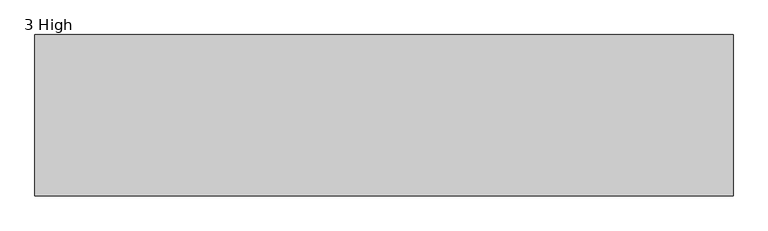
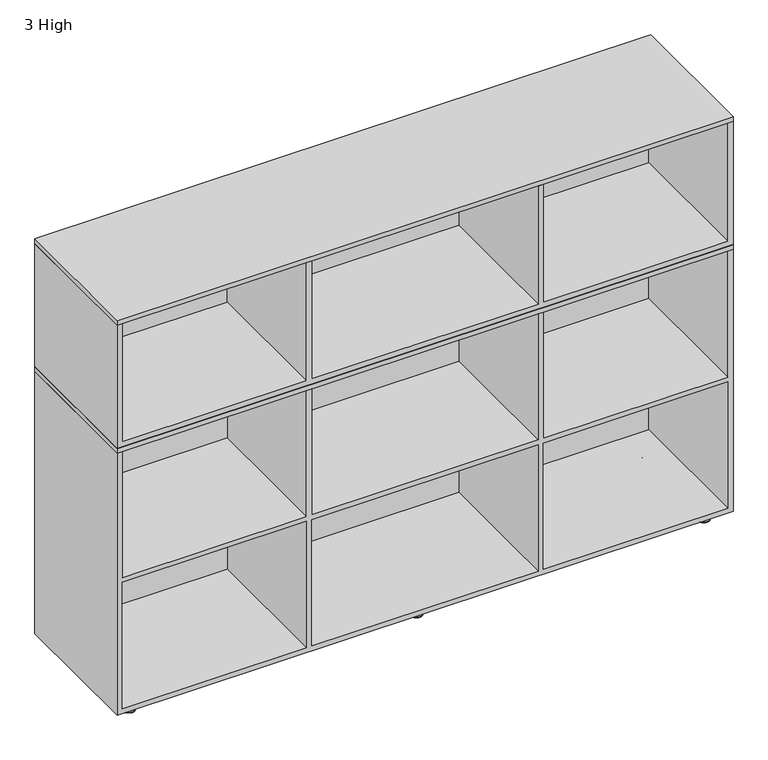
"""IFC4 building model written with IfcOpenShell, lengths in millimetres: furniture geometry, Steelcase Turnstone - Bivi - Storage - Depot : 3 High."""

from ifc_helpers import new_model, si_unit, point, frame, frame_2d, origin, place, context, project, spatial, polyline, circle_curve, ellipse_curve, trimmed, segment, composite_curve, outline, extrude, faceted_brep, source, transform, mapped, element, save
from ifc_brep_helpers import plane_surface, cylinder_surface, revolved_surface, spline_surface, advanced_brep


def furniture_3_high_cb3a7265(model_context):
    return source(origin(), model_context, "Body", "SolidModel", [
        extrude(outline(polyline([(1524.0, 0.0), (0.0, 0.0), (0.0, 352.425), (1524.0, 352.425), (1524.0, 0.0)])), frame((0.0, 0.0, 711.2), z_axis=(0.0, 0.0, 1.0), x_axis=(1.0, 0.0, 0.0)), (0.0, 0.0, 1.0), 11.8411135),
        extrude(outline(polyline([(1524.0, 0.0), (0.0, 0.0), (0.0, 352.425), (1524.0, 352.425), (1524.0, 0.0)])), frame((0.0, 0.0, 1045.1923436), z_axis=(0.0, 0.0, 1.0), x_axis=(1.0, 0.0, 0.0)), (0.0, 0.0, 1.0), 12.5983953),
        faceted_brep([(1524.0, 0.0, 1045.1923436), (1524.0, 0.0, 723.9), (1524.0, 352.425, 723.9), (1524.0, 352.425, 1045.1923436), (0.0, 0.0, 1045.1923436), (0.0, 352.425, 1045.1923436), (0.0, 352.425, 723.9), (0.0, 0.0, 723.9), (1510.9189671, 0.0, 1045.1923436), (1510.9189671, 0.0, 736.6), (1054.3793919, 0.0, 736.6), (1054.3793919, 0.0, 1045.1923436), (1041.2984316, 0.0, 1045.1923436), (1041.2984316, 0.0, 736.6), (481.3553933, 0.0, 736.6), (481.3553933, 0.0, 1045.1923436), (468.2743967, 0.0, 1045.1923436), (468.2743967, 0.0, 736.6), (13.081, 0.0, 736.6), (13.081, 0.0, 1045.1923436), (13.081, 339.217, 1045.1923436), (468.2743967, 339.217, 1045.1923436), (481.3553933, 339.217, 1045.1923436), (1041.2984316, 339.217, 1045.1923436), (1054.3793919, 339.217, 1045.1923436), (1510.9189671, 339.217, 1045.1923436), (13.081, 339.217, 736.6), (468.2743967, 339.217, 736.6), (481.3553933, 339.217, 736.6), (1041.2984316, 339.217, 736.6), (1054.3793919, 339.217, 736.6), (1510.9189671, 339.217, 736.6)], [[[0, 1, 2, 3]], [[4, 5, 6, 7]], [[1, 0, 8, 9, 10, 11, 12, 13, 14, 15, 16, 17, 18, 19, 4, 7]], [[2, 1, 7, 6]], [[3, 2, 6, 5]], [[0, 3, 5, 4, 19, 20, 21, 16, 15, 22, 23, 12, 11, 24, 25, 8]], [[26, 20, 19, 18]], [[27, 26, 18, 17]], [[21, 27, 17, 16]], [[28, 22, 15, 14]], [[29, 28, 14, 13]], [[23, 29, 13, 12]], [[30, 24, 11, 10]], [[31, 30, 10, 9]], [[25, 31, 9, 8]], [[20, 26, 27, 21]], [[22, 28, 29, 23]], [[24, 30, 31, 25]]]),
        advanced_brep(
        [(776.7323801, 38.0780241, 2.6178944), (747.2988961, 38.0780241, 2.6178944), (762.0156381, 38.0780241, 2.6178944), (769.706563, 38.0780241, 8.8411838), (754.3247132, 38.0780241, 8.8411838), (769.706563, 38.0780241, 10.8986525), (754.3247132, 38.0780241, 10.8986525), (762.0156381, 38.0780241, 10.8986525)],
        [
            (0, 1, circle_curve(frame((762.0156381, 38.0780241, 2.6178944), z_axis=(0.0, 0.0, -1.0), x_axis=(-1.0, 0.0, 0.0)), 14.716742)),
            (1, 2),
            (2, 0),
            (1, 0, circle_curve(frame((762.0156381, 38.0780241, 2.6178944), z_axis=(0.0, 0.0, -1.0), x_axis=(-1.0, 0.0, 0.0)), 14.716742)),
            (3, 4, circle_curve(frame((762.0156381, 38.0780241, 8.8411838), z_axis=(0.0, 0.0, -1.0), x_axis=(-1.0, 0.0, 0.0)), 7.6909249)),
            (4, 1, circle_curve(frame((748.0218845, 38.0780241, 8.8792349), z_axis=(0.0, 1.0, 0.0), x_axis=(1.0, 0.0, 0.0)), 6.3029436)),
            (0, 3, circle_curve(frame((776.0093917, 38.0780241, 8.8792349), z_axis=(0.0, 1.0, 0.0), x_axis=(-1.0, 0.0, 0.0)), 6.3029436)),
            (4, 3, circle_curve(frame((762.0156381, 38.0780241, 8.8411838), z_axis=(0.0, 0.0, -1.0), x_axis=(-1.0, 0.0, 0.0)), 7.6909249)),
            (5, 6, circle_curve(frame((762.0156381, 38.0780241, 10.8986525), z_axis=(0.0, 0.0, -1.0), x_axis=(-1.0, 0.0, 0.0)), 7.6909249)),
            (6, 4),
            (3, 5),
            (6, 5, circle_curve(frame((762.0156381, 38.0780241, 10.8986525), z_axis=(0.0, 0.0, -1.0), x_axis=(-1.0, 0.0, 0.0)), 7.6909249)),
            (7, 6),
            (5, 7),
        ],
        [
            plane_surface(frame((762.0156381, 38.0780241, 2.6178944), z_axis=(0.0, 0.0, -1.0), x_axis=(-1.0, 0.0, 0.0))),
            revolved_surface(trimmed(ellipse_curve(frame((748.0218845, 38.0780241, 8.8792349), z_axis=(0.0, -1.0, 0.0), x_axis=(1.0, 0.0, 0.0)), 6.3029436, 6.3029436), [point((747.2988961, 38.0780241, 2.6178944))], [point((754.3247132, 38.0780241, 8.8411838))], True, "CARTESIAN"), (762.0156381, 38.0780241, 10.8986525), (0.0, 0.0, 1.0)),
            cylinder_surface(frame((762.0156381, 38.0780241, 10.8986525), z_axis=(0.0, 0.0, 1.0), x_axis=(-1.0, 0.0, 0.0)), 7.6909249),
            plane_surface(frame((762.0156381, 38.0780241, 10.8986525), z_axis=(0.0, 0.0, 1.0), x_axis=(-1.0, 0.0, 0.0))),
        ],
        [
            (0, [[1, 2, 3]]),
            (0, [[4, -3, -2]]),
            (1, [[5, 6, -1, 7]]),
            (1, [[8, -7, -4, -6]]),
            (2, [[9, 10, -5, 11]]),
            (2, [[12, -11, -8, -10]]),
            (3, [[13, -9, 14]]),
            (3, [[-14, -12, -13]]),
        ],
    ),
        advanced_brep(
        [(775.1743443, 38.0780241, 0.0), (748.8795601, 38.0780241, 0.0), (762.0269522, 38.0780241, 0.0), (776.7550083, 38.0780241, 1.580664), (747.2988961, 38.0780241, 1.580664), (776.7550083, 38.0780241, 2.6178944), (747.2988961, 38.0780241, 2.6178944), (762.0269522, 38.0780241, 2.6178944)],
        [
            (0, 1, circle_curve(frame((762.0269522, 38.0780241, 0.0), z_axis=(0.0, 0.0, -1.0), x_axis=(-1.0, 0.0, 0.0)), 13.1473921)),
            (1, 2),
            (2, 0),
            (1, 0, circle_curve(frame((762.0269522, 38.0780241, 0.0), z_axis=(0.0, 0.0, -1.0), x_axis=(-1.0, 0.0, 0.0)), 13.1473921)),
            (3, 4, circle_curve(frame((762.0269522, 38.0780241, 1.580664), z_axis=(0.0, 0.0, -1.0), x_axis=(-1.0, 0.0, 0.0)), 14.7280561)),
            (4, 1, circle_curve(frame((748.8795601, 38.0780241, 1.580664), z_axis=(0.0, -1.0, 0.0), x_axis=(1.0, 0.0, 0.0)), 1.580664)),
            (0, 3, circle_curve(frame((775.1743443, 38.0780241, 1.580664), z_axis=(0.0, -1.0, 0.0), x_axis=(-1.0, 0.0, 0.0)), 1.580664)),
            (4, 3, circle_curve(frame((762.0269522, 38.0780241, 1.580664), z_axis=(0.0, 0.0, -1.0), x_axis=(-1.0, 0.0, 0.0)), 14.7280561)),
            (5, 6, circle_curve(frame((762.0269522, 38.0780241, 2.6178944), z_axis=(0.0, 0.0, -1.0), x_axis=(-1.0, 0.0, 0.0)), 14.7280561)),
            (6, 4),
            (3, 5),
            (6, 5, circle_curve(frame((762.0269522, 38.0780241, 2.6178944), z_axis=(0.0, 0.0, -1.0), x_axis=(-1.0, 0.0, 0.0)), 14.7280561)),
            (7, 6),
            (5, 7),
        ],
        [
            plane_surface(frame((762.0269522, 38.0780241, 0.0), z_axis=(0.0, 0.0, -1.0), x_axis=(-1.0, 0.0, 0.0))),
            revolved_surface(trimmed(ellipse_curve(frame((748.8795601, 38.0780241, 1.580664), z_axis=(0.0, 1.0, 0.0), x_axis=(1.0, 0.0, 0.0)), 1.580664, 1.580664), [point((748.8795601, 38.0780241, 0.0))], [point((747.2988961, 38.0780241, 1.580664))], True, "CARTESIAN"), (762.0269522, 38.0780241, 2.6178944), (0.0, 0.0, 1.0)),
            cylinder_surface(frame((762.0269522, 38.0780241, 2.6178944), z_axis=(0.0, 0.0, 1.0), x_axis=(-1.0, 0.0, 0.0)), 14.7280561),
            plane_surface(frame((762.0269522, 38.0780241, 2.6178944), z_axis=(0.0, 0.0, 1.0), x_axis=(-1.0, 0.0, 0.0))),
        ],
        [
            (0, [[1, 2, 3]]),
            (0, [[4, -3, -2]]),
            (1, [[5, 6, -1, 7]]),
            (1, [[8, -7, -4, -6]]),
            (2, [[9, 10, -5, 11]]),
            (2, [[12, -11, -8, -10]]),
            (3, [[13, -9, 14]]),
            (3, [[-14, -12, -13]]),
        ],
    ),
        extrude(outline(composite_curve([segment(trimmed(circle_curve(frame_2d((762.0156381, 38.1183079)), 3.9557313), [point((758.0599068, 38.1183079))], [point((765.9713694, 38.1183079))], False, "CARTESIAN"), True, "CONTINUOUS"), segment(trimmed(circle_curve(frame_2d((762.0156381, 38.1183079)), 3.9557313), [point((765.9713694, 38.1183079))], [point((758.0599068, 38.1183079))], False, "CARTESIAN"), True, "CONTINUOUS")], self_intersect=False)), frame((0.0, 0.0, 10.8986525), z_axis=(0.0, 0.0, 1.0), x_axis=(1.0, 0.0, 0.0)), (0.0, 0.0, 1.0), 11.6640053),
        advanced_brep(
        [(758.0822362, 38.1098067, 22.5626578), (765.9722002, 38.1098067, 22.5626578), (759.079, 38.1098067, 23.622), (764.9502172, 38.1098067, 23.622)],
        [
            (0, 1, circle_curve(frame((762.0272182, 38.1098067, 22.5626578), z_axis=(0.0, 0.0, -1.0), x_axis=(1.0, 0.0, 0.0)), 3.944982)),
            (1, 0, circle_curve(frame((762.0272182, 38.1098067, 22.5626578), z_axis=(0.0, 0.0, -1.0), x_axis=(1.0, 0.0, 0.0)), 3.944982)),
            (2, 3, circle_curve(frame((762.0146086, 38.1098067, 23.622), z_axis=(0.0, 0.0, 1.0), x_axis=(1.0, 0.0, 0.0)), 2.9356086)),
            (3, 2, circle_curve(frame((762.0146086, 38.1098067, 23.622), z_axis=(0.0, 0.0, 1.0), x_axis=(1.0, 0.0, 0.0)), 2.9356086)),
            (3, 1),
            (0, 2),
        ],
        [
            plane_surface(frame((762.0272182, 38.1098067, 22.5626578), z_axis=(0.0, 0.0, -1.0), x_axis=(0.0, -1.0, 0.0))),
            plane_surface(frame((762.0146086, 38.1098067, 23.622), z_axis=(0.0, 0.0, 1.0), x_axis=(0.0, -1.0, 0.0))),
            spline_surface(2, 1, [[(759.079, 38.1098067, 23.622), (758.0822362, 38.1098067, 22.5626578)], [(759.079, 41.04541530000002, 23.622), (758.0822362, 42.05478869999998, 22.5626578)], [(762.0146086, 41.04541530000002, 23.622), (762.0272182, 42.05478869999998, 22.5626578)], [(764.9502172, 41.04541530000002, 23.622), (765.9722002, 42.05478869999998, 22.5626578)], [(764.9502172, 38.1098067, 23.622), (765.9722002, 38.1098067, 22.5626578)]], [3, 2, 3], [2, 2], [0.0, 1.0, 2.0], [0.0, 1.0], weights=[[1.0, 1.0], [0.7071067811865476, 0.7071067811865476], [1.0, 1.0], [0.7071067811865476, 0.7071067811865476], [1.0, 1.0]]),
            spline_surface(2, 1, [[(764.9502172, 38.1098067, 23.622), (765.9722002, 38.1098067, 22.5626578)], [(764.9502172, 35.17419809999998, 23.622), (765.9722002, 34.16482470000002, 22.5626578)], [(762.0146086, 35.17419809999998, 23.622), (762.0272182, 34.16482470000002, 22.5626578)], [(759.079, 35.17419809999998, 23.622), (758.0822362, 34.16482470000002, 22.5626578)], [(759.079, 38.1098067, 23.622), (758.0822362, 38.1098067, 22.5626578)]], [3, 2, 3], [2, 2], [0.0, 1.0, 2.0], [0.0, 1.0], weights=[[1.0, 1.0], [0.7071067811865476, 0.7071067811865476], [1.0, 1.0], [0.7071067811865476, 0.7071067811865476], [1.0, 1.0]]),
        ],
        [
            (0, [[1, 2]]),
            (1, [[3, 4]]),
            (2, [[-4, 5, -1, 6]]),
            (3, [[-3, -6, -2, -5]]),
        ],
    ),
        advanced_brep(
        [(769.706563, 314.3469759, 10.8986525), (754.3247132, 314.3469759, 10.8986525), (762.0156381, 314.3469759, 10.8986525), (769.706563, 314.3469759, 8.8411838), (754.3247132, 314.3469759, 8.8411838), (776.7323801, 314.3469759, 2.6178944), (747.2988961, 314.3469759, 2.6178944), (762.0156381, 314.3469759, 2.6178944)],
        [
            (0, 1, circle_curve(frame((762.0156381, 314.3469759, 10.8986525), z_axis=(0.0, 0.0, 1.0), x_axis=(-1.0, 0.0, 0.0)), 7.6909249)),
            (1, 2),
            (2, 0),
            (1, 0, circle_curve(frame((762.0156381, 314.3469759, 10.8986525), z_axis=(0.0, 0.0, 1.0), x_axis=(-1.0, 0.0, 0.0)), 7.6909249)),
            (3, 4, circle_curve(frame((762.0156381, 314.3469759, 8.8411838), z_axis=(0.0, 0.0, 1.0), x_axis=(-1.0, 0.0, 0.0)), 7.6909249)),
            (4, 1),
            (0, 3),
            (4, 3, circle_curve(frame((762.0156381, 314.3469759, 8.8411838), z_axis=(0.0, 0.0, 1.0), x_axis=(-1.0, 0.0, 0.0)), 7.6909249)),
            (5, 6, circle_curve(frame((762.0156381, 314.3469759, 2.6178944), z_axis=(0.0, 0.0, 1.0), x_axis=(-1.0, 0.0, 0.0)), 14.716742)),
            (6, 4, circle_curve(frame((748.0218845, 314.3469759, 8.8792349), z_axis=(0.0, -1.0, 0.0), x_axis=(1.0, 0.0, 0.0)), 6.3029436)),
            (3, 5, circle_curve(frame((776.0093917, 314.3469759, 8.8792349), z_axis=(0.0, -1.0, 0.0), x_axis=(-1.0, 0.0, 0.0)), 6.3029436)),
            (6, 5, circle_curve(frame((762.0156381, 314.3469759, 2.6178944), z_axis=(0.0, 0.0, 1.0), x_axis=(-1.0, 0.0, 0.0)), 14.716742)),
            (7, 6),
            (5, 7),
        ],
        [
            plane_surface(frame((762.0156381, 314.3469759, 10.8986525), z_axis=(0.0, 0.0, 1.0), x_axis=(-1.0, 0.0, 0.0))),
            cylinder_surface(frame((762.0156381, 314.3469759, 10.8986525), z_axis=(0.0, 0.0, -1.0), x_axis=(-1.0, 0.0, 0.0)), 7.6909249),
            revolved_surface(trimmed(ellipse_curve(frame((748.0218845, 314.3469759, 8.8792349), z_axis=(0.0, 1.0, 0.0), x_axis=(1.0, 0.0, 0.0)), 6.3029436, 6.3029436), [point((754.3247132, 314.3469759, 8.8411838))], [point((747.2988961, 314.3469759, 2.6178944))], True, "CARTESIAN"), (762.0156381, 314.3469759, 10.8986525), (0.0, 0.0, -1.0)),
            plane_surface(frame((762.0156381, 314.3469759, 2.6178944), z_axis=(0.0, 0.0, -1.0), x_axis=(-1.0, 0.0, 0.0))),
        ],
        [
            (0, [[1, 2, 3]]),
            (0, [[4, -3, -2]]),
            (1, [[5, 6, -1, 7]]),
            (1, [[8, -7, -4, -6]]),
            (2, [[9, 10, -5, 11]]),
            (2, [[12, -11, -8, -10]]),
            (3, [[13, -9, 14]]),
            (3, [[-14, -12, -13]]),
        ],
    ),
        advanced_brep(
        [(776.7550083, 314.3469759, 2.6178944), (747.2988961, 314.3469759, 2.6178944), (762.0269522, 314.3469759, 2.6178944), (776.7550083, 314.3469759, 1.580664), (747.2988961, 314.3469759, 1.580664), (775.1743443, 314.3469759, 0.0), (748.8795601, 314.3469759, 0.0), (762.0269522, 314.3469759, 0.0)],
        [
            (0, 1, circle_curve(frame((762.0269522, 314.3469759, 2.6178944), z_axis=(0.0, 0.0, 1.0), x_axis=(-1.0, 0.0, 0.0)), 14.7280561)),
            (1, 2),
            (2, 0),
            (1, 0, circle_curve(frame((762.0269522, 314.3469759, 2.6178944), z_axis=(0.0, 0.0, 1.0), x_axis=(-1.0, 0.0, 0.0)), 14.7280561)),
            (3, 4, circle_curve(frame((762.0269522, 314.3469759, 1.580664), z_axis=(0.0, 0.0, 1.0), x_axis=(-1.0, 0.0, 0.0)), 14.7280561)),
            (4, 1),
            (0, 3),
            (4, 3, circle_curve(frame((762.0269522, 314.3469759, 1.580664), z_axis=(0.0, 0.0, 1.0), x_axis=(-1.0, 0.0, 0.0)), 14.7280561)),
            (5, 6, circle_curve(frame((762.0269522, 314.3469759, 0.0), z_axis=(0.0, 0.0, 1.0), x_axis=(-1.0, 0.0, 0.0)), 13.1473921)),
            (6, 4, circle_curve(frame((748.8795601, 314.3469759, 1.580664), z_axis=(0.0, 1.0, 0.0), x_axis=(1.0, 0.0, 0.0)), 1.580664)),
            (3, 5, circle_curve(frame((775.1743443, 314.3469759, 1.580664), z_axis=(0.0, 1.0, 0.0), x_axis=(-1.0, 0.0, 0.0)), 1.580664)),
            (6, 5, circle_curve(frame((762.0269522, 314.3469759, 0.0), z_axis=(0.0, 0.0, 1.0), x_axis=(-1.0, 0.0, 0.0)), 13.1473921)),
            (7, 6),
            (5, 7),
        ],
        [
            plane_surface(frame((762.0269522, 314.3469759, 2.6178944), z_axis=(0.0, 0.0, 1.0), x_axis=(-1.0, 0.0, 0.0))),
            cylinder_surface(frame((762.0269522, 314.3469759, 2.6178944), z_axis=(0.0, 0.0, -1.0), x_axis=(-1.0, 0.0, 0.0)), 14.7280561),
            revolved_surface(trimmed(ellipse_curve(frame((748.8795601, 314.3469759, 1.580664), z_axis=(0.0, -1.0, 0.0), x_axis=(1.0, 0.0, 0.0)), 1.580664, 1.580664), [point((747.2988961, 314.3469759, 1.580664))], [point((748.8795601, 314.3469759, 0.0))], True, "CARTESIAN"), (762.0269522, 314.3469759, 2.6178944), (0.0, 0.0, -1.0)),
            plane_surface(frame((762.0269522, 314.3469759, 0.0), z_axis=(0.0, 0.0, -1.0), x_axis=(-1.0, 0.0, 0.0))),
        ],
        [
            (0, [[1, 2, 3]]),
            (0, [[4, -3, -2]]),
            (1, [[5, 6, -1, 7]]),
            (1, [[8, -7, -4, -6]]),
            (2, [[9, 10, -5, 11]]),
            (2, [[12, -11, -8, -10]]),
            (3, [[13, -9, 14]]),
            (3, [[-14, -12, -13]]),
        ],
    ),
        extrude(outline(composite_curve([segment(trimmed(circle_curve(frame_2d((762.0156381, 314.3066921)), 3.9557313), [point((758.0599068, 314.3066921))], [point((765.9713694, 314.3066921))], False, "CARTESIAN"), True, "CONTINUOUS"), segment(trimmed(circle_curve(frame_2d((762.0156381, 314.3066921)), 3.9557313), [point((765.9713694, 314.3066921))], [point((758.0599068, 314.3066921))], False, "CARTESIAN"), True, "CONTINUOUS")], self_intersect=False)), frame((0.0, 0.0, 10.8986525), z_axis=(0.0, 0.0, 1.0), x_axis=(1.0, 0.0, 0.0)), (0.0, 0.0, 1.0), 11.6640053),
        advanced_brep(
        [(758.0822362, 314.3151933, 22.5626578), (765.9722002, 314.3151933, 22.5626578), (759.079, 314.3151933, 23.622), (764.9502172, 314.3151933, 23.622)],
        [
            (0, 1, circle_curve(frame((762.0272182, 314.3151933, 22.5626578), z_axis=(0.0, 0.0, -1.0), x_axis=(1.0, 0.0, 0.0)), 3.944982)),
            (1, 0, circle_curve(frame((762.0272182, 314.3151933, 22.5626578), z_axis=(0.0, 0.0, -1.0), x_axis=(1.0, 0.0, 0.0)), 3.944982)),
            (2, 3, circle_curve(frame((762.0146086, 314.3151933, 23.622), z_axis=(0.0, 0.0, 1.0), x_axis=(1.0, 0.0, 0.0)), 2.9356086)),
            (3, 2, circle_curve(frame((762.0146086, 314.3151933, 23.622), z_axis=(0.0, 0.0, 1.0), x_axis=(1.0, 0.0, 0.0)), 2.9356086)),
            (3, 1),
            (0, 2),
        ],
        [
            plane_surface(frame((762.0272182, 314.3151933, 22.5626578), z_axis=(0.0, 0.0, -1.0), x_axis=(0.0, -1.0, 0.0))),
            plane_surface(frame((762.0146086, 314.3151933, 23.622), z_axis=(0.0, 0.0, 1.0), x_axis=(0.0, -1.0, 0.0))),
            spline_surface(2, 1, [[(759.079, 314.3151933, 23.622), (758.0822362, 314.3151933, 22.5626578)], [(759.079, 317.2508019, 23.622), (758.0822362, 318.26017529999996, 22.5626578)], [(762.0146086, 317.2508019, 23.622), (762.0272182, 318.26017529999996, 22.5626578)], [(764.9502172, 317.2508019, 23.622), (765.9722002, 318.26017529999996, 22.5626578)], [(764.9502172, 314.3151933, 23.622), (765.9722002, 314.3151933, 22.5626578)]], [3, 2, 3], [2, 2], [0.0, 1.0, 2.0], [0.0, 1.0], weights=[[1.0, 1.0], [0.7071067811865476, 0.7071067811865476], [1.0, 1.0], [0.7071067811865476, 0.7071067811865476], [1.0, 1.0]]),
            spline_surface(2, 1, [[(764.9502172, 314.3151933, 23.622), (765.9722002, 314.3151933, 22.5626578)], [(764.9502172, 311.37958469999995, 23.622), (765.9722002, 310.3702113, 22.5626578)], [(762.0146086, 311.37958469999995, 23.622), (762.0272182, 310.3702113, 22.5626578)], [(759.079, 311.37958469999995, 23.622), (758.0822362, 310.3702113, 22.5626578)], [(759.079, 314.3151933, 23.622), (758.0822362, 314.3151933, 22.5626578)]], [3, 2, 3], [2, 2], [0.0, 1.0, 2.0], [0.0, 1.0], weights=[[1.0, 1.0], [0.7071067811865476, 0.7071067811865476], [1.0, 1.0], [0.7071067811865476, 0.7071067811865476], [1.0, 1.0]]),
        ],
        [
            (0, [[1, 2]]),
            (1, [[3, 4]]),
            (2, [[-4, 5, -1, 6]]),
            (3, [[-3, -6, -2, -5]]),
        ],
    ),
        faceted_brep([(0.0, 0.0, 711.2), (0.0, 0.0, 25.4), (1524.0, 0.0, 25.4), (1524.0, 0.0, 711.2), (1510.9189671, 0.0, 711.2), (1510.9189671, 0.0, 381.0), (1054.3793919, 0.0, 381.0), (1054.3793919, 0.0, 711.2), (1041.2984316, 0.0, 711.2), (1041.2984316, 0.0, 381.0), (481.3553933, 0.0, 381.0), (481.3553933, 0.0, 711.2), (468.2743967, 0.0, 711.2), (468.2743967, 0.0, 381.0), (13.081, 0.0, 381.0), (13.081, 0.0, 711.2), (13.081, 0.0, 368.3), (468.2743967, 0.0, 368.3), (468.2743967, 0.0, 38.1), (13.081, 0.0, 38.1), (481.3553933, 0.0, 368.3), (1041.2984316, 0.0, 368.3), (1041.2984316, 0.0, 38.1), (481.3553933, 0.0, 38.1), (1054.3793919, 0.0, 368.3), (1510.9189671, 0.0, 368.3), (1510.9189671, 0.0, 38.1), (1054.3793919, 0.0, 38.1), (1524.0, 352.425, 711.2), (1524.0, 352.425, 25.4), (0.0, 352.425, 25.4), (0.0, 352.425, 711.2), (13.081, 339.344, 711.2), (468.2743967, 339.344, 711.2), (481.3553933, 339.344, 711.2), (1041.2984316, 339.344, 711.2), (1054.3793919, 339.344, 711.2), (1510.9189671, 339.344, 711.2), (13.081, 339.344, 381.0), (468.2743967, 339.344, 381.0), (481.3553933, 339.344, 381.0), (1041.2984316, 339.344, 381.0), (1054.3793919, 339.344, 381.0), (1510.9189671, 339.344, 381.0), (468.2743967, 339.344, 368.3), (13.081, 339.344, 368.3), (13.081, 339.344, 38.1), (468.2743967, 339.344, 38.1), (1041.2984316, 339.344, 368.3), (481.3553933, 339.344, 368.3), (481.3553933, 339.344, 38.1), (1041.2984316, 339.344, 38.1), (1510.9189671, 339.344, 368.3), (1054.3793919, 339.344, 368.3), (1054.3793919, 339.344, 38.1), (1510.9189671, 339.344, 38.1)], [[[0, 1, 2, 3, 4, 5, 6, 7, 8, 9, 10, 11, 12, 13, 14, 15], [16, 17, 18, 19], [20, 21, 22, 23], [24, 25, 26, 27]], [[28, 29, 30, 31]], [[28, 31, 0, 15, 32, 33, 12, 11, 34, 35, 8, 7, 36, 37, 4, 3]], [[1, 0, 31, 30]], [[2, 1, 30, 29]], [[3, 2, 29, 28]], [[32, 38, 39, 33]], [[34, 40, 41, 35]], [[36, 42, 43, 37]], [[44, 45, 46, 47]], [[48, 49, 50, 51]], [[52, 53, 54, 55]], [[38, 32, 15, 14]], [[39, 38, 14, 13]], [[33, 39, 13, 12]], [[40, 34, 11, 10]], [[41, 40, 10, 9]], [[35, 41, 9, 8]], [[42, 36, 7, 6]], [[43, 42, 6, 5]], [[37, 43, 5, 4]], [[45, 44, 17, 16]], [[46, 45, 16, 19]], [[47, 46, 19, 18]], [[44, 47, 18, 17]], [[49, 48, 21, 20]], [[50, 49, 20, 23]], [[51, 50, 23, 22]], [[48, 51, 22, 21]], [[53, 52, 25, 24]], [[54, 53, 24, 27]], [[55, 54, 27, 26]], [[52, 55, 26, 25]]]),
        extrude(outline(polyline([(25.4000008, 13.0809966), (25.4000008, 339.344), (76.2, 339.344), (76.2, 13.0809966), (25.4000008, 13.0809966)])), frame((0.0, 0.0, 15.8750011), z_axis=(0.0, 0.0, 1.0), x_axis=(1.0, 0.0, 0.0)), (0.0, 0.0, 1.0), 9.5249989),
        extrude(outline(polyline([(736.6000242, 13.0809966), (736.6000242, 339.344), (787.4000235, 339.344), (787.4000235, 13.0809966), (736.6000242, 13.0809966)])), frame((0.0, 0.0, 15.8750011), z_axis=(0.0, 0.0, 1.0), x_axis=(1.0, 0.0, 0.0)), (0.0, 0.0, 1.0), 9.5249989),
        extrude(outline(polyline([(1447.8, 13.0809966), (1447.8, 339.344), (1498.5999992, 339.344), (1498.5999992, 13.0809966), (1447.8, 13.0809966)])), frame((0.0, 0.0, 15.8750011), z_axis=(0.0, 0.0, 1.0), x_axis=(1.0, 0.0, 0.0)), (0.0, 0.0, 1.0), 9.5249989),
        advanced_brep(
        [(1465.5173965, 38.0780241, 10.8986525), (1480.8992463, 38.0780241, 10.8986525), (1473.2083214, 38.0780241, 10.8986525), (1465.5173965, 38.0780241, 8.8411838), (1480.8992463, 38.0780241, 8.8411838), (1458.4915794, 38.0780241, 2.6178944), (1487.9250634, 38.0780241, 2.6178944), (1473.2083214, 38.0780241, 2.6178944)],
        [
            (0, 1, circle_curve(frame((1473.2083214, 38.0780241, 10.8986525), z_axis=(0.0, 0.0, 1.0), x_axis=(1.0, 0.0, 0.0)), 7.6909249)),
            (1, 2),
            (2, 0),
            (1, 0, circle_curve(frame((1473.2083214, 38.0780241, 10.8986525), z_axis=(0.0, 0.0, 1.0), x_axis=(1.0, 0.0, 0.0)), 7.6909249)),
            (3, 4, circle_curve(frame((1473.2083214, 38.0780241, 8.8411838), z_axis=(0.0, 0.0, 1.0), x_axis=(1.0, 0.0, 0.0)), 7.6909249)),
            (4, 1),
            (0, 3),
            (4, 3, circle_curve(frame((1473.2083214, 38.0780241, 8.8411838), z_axis=(0.0, 0.0, 1.0), x_axis=(1.0, 0.0, 0.0)), 7.6909249)),
            (5, 6, circle_curve(frame((1473.2083214, 38.0780241, 2.6178944), z_axis=(0.0, 0.0, 1.0), x_axis=(1.0, 0.0, 0.0)), 14.716742)),
            (6, 4, circle_curve(frame((1487.202075, 38.0780241, 8.8792349), z_axis=(0.0, 1.0, 0.0), x_axis=(-1.0, 0.0, 0.0)), 6.3029436)),
            (3, 5, circle_curve(frame((1459.2145678, 38.0780241, 8.8792349), z_axis=(0.0, 1.0, 0.0), x_axis=(1.0, 0.0, 0.0)), 6.3029436)),
            (6, 5, circle_curve(frame((1473.2083214, 38.0780241, 2.6178944), z_axis=(0.0, 0.0, 1.0), x_axis=(1.0, 0.0, 0.0)), 14.716742)),
            (7, 6),
            (5, 7),
        ],
        [
            plane_surface(frame((1473.2083214, 38.0780241, 10.8986525), z_axis=(0.0, 0.0, 1.0), x_axis=(1.0, 0.0, 0.0))),
            cylinder_surface(frame((1473.2083214, 38.0780241, 10.8986525), z_axis=(0.0, 0.0, -1.0), x_axis=(1.0, 0.0, 0.0)), 7.6909249),
            revolved_surface(trimmed(ellipse_curve(frame((1487.202075, 38.0780241, 8.8792349), z_axis=(0.0, -1.0, 0.0), x_axis=(-1.0, 0.0, 0.0)), 6.3029436, 6.3029436), [point((1480.8992463, 38.0780241, 8.8411838))], [point((1487.9250634, 38.0780241, 2.6178944))], True, "CARTESIAN"), (1473.2083214, 38.0780241, 10.8986525), (0.0, 0.0, -1.0)),
            plane_surface(frame((1473.2083214, 38.0780241, 2.6178944), z_axis=(0.0, 0.0, -1.0), x_axis=(1.0, 0.0, 0.0))),
        ],
        [
            (0, [[1, 2, 3]]),
            (0, [[4, -3, -2]]),
            (1, [[5, 6, -1, 7]]),
            (1, [[8, -7, -4, -6]]),
            (2, [[9, 10, -5, 11]]),
            (2, [[12, -11, -8, -10]]),
            (3, [[13, -9, 14]]),
            (3, [[-14, -12, -13]]),
        ],
    ),
        advanced_brep(
        [(1458.4689512, 38.0780241, 2.6178944), (1487.9250634, 38.0780241, 2.6178944), (1473.1970073, 38.0780241, 2.6178944), (1458.4689512, 38.0780241, 1.580664), (1487.9250634, 38.0780241, 1.580664), (1460.0496152, 38.0780241, 0.0), (1486.3443994, 38.0780241, 0.0), (1473.1970073, 38.0780241, 0.0)],
        [
            (0, 1, circle_curve(frame((1473.1970073, 38.0780241, 2.6178944), z_axis=(0.0, 0.0, 1.0), x_axis=(1.0, 0.0, 0.0)), 14.7280561)),
            (1, 2),
            (2, 0),
            (1, 0, circle_curve(frame((1473.1970073, 38.0780241, 2.6178944), z_axis=(0.0, 0.0, 1.0), x_axis=(1.0, 0.0, 0.0)), 14.7280561)),
            (3, 4, circle_curve(frame((1473.1970073, 38.0780241, 1.580664), z_axis=(0.0, 0.0, 1.0), x_axis=(1.0, 0.0, 0.0)), 14.7280561)),
            (4, 1),
            (0, 3),
            (4, 3, circle_curve(frame((1473.1970073, 38.0780241, 1.580664), z_axis=(0.0, 0.0, 1.0), x_axis=(1.0, 0.0, 0.0)), 14.7280561)),
            (5, 6, circle_curve(frame((1473.1970073, 38.0780241, 0.0), z_axis=(0.0, 0.0, 1.0), x_axis=(1.0, 0.0, 0.0)), 13.1473921)),
            (6, 4, circle_curve(frame((1486.3443994, 38.0780241, 1.580664), z_axis=(0.0, -1.0, 0.0), x_axis=(-1.0, 0.0, 0.0)), 1.580664)),
            (3, 5, circle_curve(frame((1460.0496152, 38.0780241, 1.580664), z_axis=(0.0, -1.0, 0.0), x_axis=(1.0, 0.0, 0.0)), 1.580664)),
            (6, 5, circle_curve(frame((1473.1970073, 38.0780241, 0.0), z_axis=(0.0, 0.0, 1.0), x_axis=(1.0, 0.0, 0.0)), 13.1473921)),
            (7, 6),
            (5, 7),
        ],
        [
            plane_surface(frame((1473.1970073, 38.0780241, 2.6178944), z_axis=(0.0, 0.0, 1.0), x_axis=(1.0, 0.0, 0.0))),
            cylinder_surface(frame((1473.1970073, 38.0780241, 2.6178944), z_axis=(0.0, 0.0, -1.0), x_axis=(1.0, 0.0, 0.0)), 14.7280561),
            revolved_surface(trimmed(ellipse_curve(frame((1486.3443994, 38.0780241, 1.580664), z_axis=(0.0, 1.0, 0.0), x_axis=(-1.0, 0.0, 0.0)), 1.580664, 1.580664), [point((1487.9250634, 38.0780241, 1.580664))], [point((1486.3443994, 38.0780241, 0.0))], True, "CARTESIAN"), (1473.1970073, 38.0780241, 2.6178944), (0.0, 0.0, -1.0)),
            plane_surface(frame((1473.1970073, 38.0780241, 0.0), z_axis=(0.0, 0.0, -1.0), x_axis=(1.0, 0.0, 0.0))),
        ],
        [
            (0, [[1, 2, 3]]),
            (0, [[4, -3, -2]]),
            (1, [[5, 6, -1, 7]]),
            (1, [[8, -7, -4, -6]]),
            (2, [[9, 10, -5, 11]]),
            (2, [[12, -11, -8, -10]]),
            (3, [[13, -9, 14]]),
            (3, [[-14, -12, -13]]),
        ],
    ),
        extrude(outline(composite_curve([segment(trimmed(circle_curve(frame_2d((1473.2083214, 38.1183079)), 3.9557313), [point((1477.1640527, 38.1183079))], [point((1469.2525901, 38.1183079))], False, "CARTESIAN"), True, "CONTINUOUS"), segment(trimmed(circle_curve(frame_2d((1473.2083214, 38.1183079)), 3.9557313), [point((1469.2525901, 38.1183079))], [point((1477.1640527, 38.1183079))], False, "CARTESIAN"), True, "CONTINUOUS")], self_intersect=False)), frame((0.0, 0.0, 10.8986525), z_axis=(0.0, 0.0, 1.0), x_axis=(1.0, 0.0, 0.0)), (0.0, 0.0, 1.0), 11.6640053),
        advanced_brep(
        [(1477.1417233, 38.1098067, 22.5626578), (1469.2517593, 38.1098067, 22.5626578), (1476.1449595, 38.1098067, 23.622), (1470.2737423, 38.1098067, 23.622)],
        [
            (0, 1, circle_curve(frame((1473.1967413, 38.1098067, 22.5626578), z_axis=(0.0, 0.0, -1.0), x_axis=(-1.0, 0.0, 0.0)), 3.944982)),
            (1, 0, circle_curve(frame((1473.1967413, 38.1098067, 22.5626578), z_axis=(0.0, 0.0, -1.0), x_axis=(-1.0, 0.0, 0.0)), 3.944982)),
            (2, 3, circle_curve(frame((1473.2093509, 38.1098067, 23.622), z_axis=(0.0, 0.0, 1.0), x_axis=(-1.0, 0.0, 0.0)), 2.9356086)),
            (3, 2, circle_curve(frame((1473.2093509, 38.1098067, 23.622), z_axis=(0.0, 0.0, 1.0), x_axis=(-1.0, 0.0, 0.0)), 2.9356086)),
            (3, 1),
            (0, 2),
        ],
        [
            plane_surface(frame((1473.1967413, 38.1098067, 22.5626578), z_axis=(0.0, 0.0, -1.0), x_axis=(0.0, 1.0, 0.0))),
            plane_surface(frame((1473.2093509, 38.1098067, 23.622), z_axis=(0.0, 0.0, 1.0), x_axis=(0.0, 1.0, 0.0))),
            spline_surface(2, 1, [[(1476.1449595, 38.1098067, 23.622), (1477.1417233, 38.1098067, 22.5626578)], [(1476.1449595, 35.17419809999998, 23.622), (1477.1417233, 34.16482470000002, 22.5626578)], [(1473.2093509, 35.17419809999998, 23.622), (1473.1967413, 34.16482470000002, 22.5626578)], [(1470.2737422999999, 35.17419809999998, 23.622), (1469.2517593, 34.16482470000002, 22.5626578)], [(1470.2737423, 38.1098067, 23.622), (1469.2517593, 38.1098067, 22.5626578)]], [3, 2, 3], [2, 2], [0.0, 1.0, 2.0], [0.0, 1.0], weights=[[1.0, 1.0], [0.7071067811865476, 0.7071067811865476], [1.0, 1.0], [0.7071067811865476, 0.7071067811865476], [1.0, 1.0]]),
            spline_surface(2, 1, [[(1470.2737423, 38.1098067, 23.622), (1469.2517593, 38.1098067, 22.5626578)], [(1470.2737423, 41.045415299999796, 23.622), (1469.2517593, 42.05478869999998, 22.5626578)], [(1473.2093509, 41.045415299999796, 23.622), (1473.1967413, 42.05478869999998, 22.5626578)], [(1476.1449594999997, 41.045415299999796, 23.622), (1477.1417233, 42.05478869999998, 22.5626578)], [(1476.1449595, 38.1098067, 23.622), (1477.1417233, 38.1098067, 22.5626578)]], [3, 2, 3], [2, 2], [0.0, 1.0, 2.0], [0.0, 1.0], weights=[[1.0, 1.0], [0.7071067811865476, 0.7071067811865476], [1.0, 1.0], [0.7071067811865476, 0.7071067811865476], [1.0, 1.0]]),
        ],
        [
            (0, [[1, 2]]),
            (1, [[3, 4]]),
            (2, [[-4, 5, -1, 6]]),
            (3, [[-3, -6, -2, -5]]),
        ],
    ),
        advanced_brep(
        [(65.5084206, 38.0780241, 2.6178944), (36.0749366, 38.0780241, 2.6178944), (50.7916786, 38.0780241, 2.6178944), (58.4826035, 38.0780241, 8.8411838), (43.1007537, 38.0780241, 8.8411838), (58.4826035, 38.0780241, 10.8986525), (43.1007537, 38.0780241, 10.8986525), (50.7916786, 38.0780241, 10.8986525)],
        [
            (0, 1, circle_curve(frame((50.7916786, 38.0780241, 2.6178944), z_axis=(0.0, 0.0, -1.0), x_axis=(-1.0, 0.0, 0.0)), 14.716742)),
            (1, 2),
            (2, 0),
            (1, 0, circle_curve(frame((50.7916786, 38.0780241, 2.6178944), z_axis=(0.0, 0.0, -1.0), x_axis=(-1.0, 0.0, 0.0)), 14.716742)),
            (3, 4, circle_curve(frame((50.7916786, 38.0780241, 8.8411838), z_axis=(0.0, 0.0, -1.0), x_axis=(-1.0, 0.0, 0.0)), 7.6909249)),
            (4, 1, circle_curve(frame((36.797925, 38.0780241, 8.8792349), z_axis=(0.0, 1.0, 0.0), x_axis=(1.0, 0.0, 0.0)), 6.3029436)),
            (0, 3, circle_curve(frame((64.7854322, 38.0780241, 8.8792349), z_axis=(0.0, 1.0, 0.0), x_axis=(-1.0, 0.0, 0.0)), 6.3029436)),
            (4, 3, circle_curve(frame((50.7916786, 38.0780241, 8.8411838), z_axis=(0.0, 0.0, -1.0), x_axis=(-1.0, 0.0, 0.0)), 7.6909249)),
            (5, 6, circle_curve(frame((50.7916786, 38.0780241, 10.8986525), z_axis=(0.0, 0.0, -1.0), x_axis=(-1.0, 0.0, 0.0)), 7.6909249)),
            (6, 4),
            (3, 5),
            (6, 5, circle_curve(frame((50.7916786, 38.0780241, 10.8986525), z_axis=(0.0, 0.0, -1.0), x_axis=(-1.0, 0.0, 0.0)), 7.6909249)),
            (7, 6),
            (5, 7),
        ],
        [
            plane_surface(frame((50.7916786, 38.0780241, 2.6178944), z_axis=(0.0, 0.0, -1.0), x_axis=(-1.0, 0.0, 0.0))),
            revolved_surface(trimmed(ellipse_curve(frame((36.797925, 38.0780241, 8.8792349), z_axis=(0.0, -1.0, 0.0), x_axis=(1.0, 0.0, 0.0)), 6.3029436, 6.3029436), [point((36.0749366, 38.0780241, 2.6178944))], [point((43.1007537, 38.0780241, 8.8411838))], True, "CARTESIAN"), (50.7916786, 38.0780241, 10.8986525), (0.0, 0.0, 1.0)),
            cylinder_surface(frame((50.7916786, 38.0780241, 10.8986525), z_axis=(0.0, 0.0, 1.0), x_axis=(-1.0, 0.0, 0.0)), 7.6909249),
            plane_surface(frame((50.7916786, 38.0780241, 10.8986525), z_axis=(0.0, 0.0, 1.0), x_axis=(-1.0, 0.0, 0.0))),
        ],
        [
            (0, [[1, 2, 3]]),
            (0, [[4, -3, -2]]),
            (1, [[5, 6, -1, 7]]),
            (1, [[8, -7, -4, -6]]),
            (2, [[9, 10, -5, 11]]),
            (2, [[12, -11, -8, -10]]),
            (3, [[13, -9, 14]]),
            (3, [[-14, -12, -13]]),
        ],
    ),
        advanced_brep(
        [(63.9503848, 38.0780241, 0.0), (37.6556006, 38.0780241, 0.0), (50.8029927, 38.0780241, 0.0), (65.5310488, 38.0780241, 1.580664), (36.0749366, 38.0780241, 1.580664), (65.5310488, 38.0780241, 2.6178944), (36.0749366, 38.0780241, 2.6178944), (50.8029927, 38.0780241, 2.6178944)],
        [
            (0, 1, circle_curve(frame((50.8029927, 38.0780241, 0.0), z_axis=(0.0, 0.0, -1.0), x_axis=(-1.0, 0.0, 0.0)), 13.1473921)),
            (1, 2),
            (2, 0),
            (1, 0, circle_curve(frame((50.8029927, 38.0780241, 0.0), z_axis=(0.0, 0.0, -1.0), x_axis=(-1.0, 0.0, 0.0)), 13.1473921)),
            (3, 4, circle_curve(frame((50.8029927, 38.0780241, 1.580664), z_axis=(0.0, 0.0, -1.0), x_axis=(-1.0, 0.0, 0.0)), 14.7280561)),
            (4, 1, circle_curve(frame((37.6556006, 38.0780241, 1.580664), z_axis=(0.0, -1.0, 0.0), x_axis=(1.0, 0.0, 0.0)), 1.580664)),
            (0, 3, circle_curve(frame((63.9503848, 38.0780241, 1.580664), z_axis=(0.0, -1.0, 0.0), x_axis=(-1.0, 0.0, 0.0)), 1.580664)),
            (4, 3, circle_curve(frame((50.8029927, 38.0780241, 1.580664), z_axis=(0.0, 0.0, -1.0), x_axis=(-1.0, 0.0, 0.0)), 14.7280561)),
            (5, 6, circle_curve(frame((50.8029927, 38.0780241, 2.6178944), z_axis=(0.0, 0.0, -1.0), x_axis=(-1.0, 0.0, 0.0)), 14.7280561)),
            (6, 4),
            (3, 5),
            (6, 5, circle_curve(frame((50.8029927, 38.0780241, 2.6178944), z_axis=(0.0, 0.0, -1.0), x_axis=(-1.0, 0.0, 0.0)), 14.7280561)),
            (7, 6),
            (5, 7),
        ],
        [
            plane_surface(frame((50.8029927, 38.0780241, 0.0), z_axis=(0.0, 0.0, -1.0), x_axis=(-1.0, 0.0, 0.0))),
            revolved_surface(trimmed(ellipse_curve(frame((37.6556006, 38.0780241, 1.580664), z_axis=(0.0, 1.0, 0.0), x_axis=(1.0, 0.0, 0.0)), 1.580664, 1.580664), [point((37.6556006, 38.0780241, 0.0))], [point((36.0749366, 38.0780241, 1.580664))], True, "CARTESIAN"), (50.8029927, 38.0780241, 2.6178944), (0.0, 0.0, 1.0)),
            cylinder_surface(frame((50.8029927, 38.0780241, 2.6178944), z_axis=(0.0, 0.0, 1.0), x_axis=(-1.0, 0.0, 0.0)), 14.7280561),
            plane_surface(frame((50.8029927, 38.0780241, 2.6178944), z_axis=(0.0, 0.0, 1.0), x_axis=(-1.0, 0.0, 0.0))),
        ],
        [
            (0, [[1, 2, 3]]),
            (0, [[4, -3, -2]]),
            (1, [[5, 6, -1, 7]]),
            (1, [[8, -7, -4, -6]]),
            (2, [[9, 10, -5, 11]]),
            (2, [[12, -11, -8, -10]]),
            (3, [[13, -9, 14]]),
            (3, [[-14, -12, -13]]),
        ],
    ),
        extrude(outline(composite_curve([segment(trimmed(circle_curve(frame_2d((50.7916786, 38.1183079)), 3.9557313), [point((46.8359473, 38.1183079))], [point((54.7474099, 38.1183079))], False, "CARTESIAN"), True, "CONTINUOUS"), segment(trimmed(circle_curve(frame_2d((50.7916786, 38.1183079)), 3.9557313), [point((54.7474099, 38.1183079))], [point((46.8359473, 38.1183079))], False, "CARTESIAN"), True, "CONTINUOUS")], self_intersect=False)), frame((0.0, 0.0, 10.8986525), z_axis=(0.0, 0.0, 1.0), x_axis=(1.0, 0.0, 0.0)), (0.0, 0.0, 1.0), 11.6640053),
        advanced_brep(
        [(46.8582767, 38.1098067, 22.5626578), (54.7482407, 38.1098067, 22.5626578), (47.8550405, 38.1098067, 23.622), (53.7262577, 38.1098067, 23.622)],
        [
            (0, 1, circle_curve(frame((50.8032587, 38.1098067, 22.5626578), z_axis=(0.0, 0.0, -1.0), x_axis=(1.0, 0.0, 0.0)), 3.944982)),
            (1, 0, circle_curve(frame((50.8032587, 38.1098067, 22.5626578), z_axis=(0.0, 0.0, -1.0), x_axis=(1.0, 0.0, 0.0)), 3.944982)),
            (2, 3, circle_curve(frame((50.7906491, 38.1098067, 23.622), z_axis=(0.0, 0.0, 1.0), x_axis=(1.0, 0.0, 0.0)), 2.9356086)),
            (3, 2, circle_curve(frame((50.7906491, 38.1098067, 23.622), z_axis=(0.0, 0.0, 1.0), x_axis=(1.0, 0.0, 0.0)), 2.9356086)),
            (3, 1),
            (0, 2),
        ],
        [
            plane_surface(frame((50.8032587, 38.1098067, 22.5626578), z_axis=(0.0, 0.0, -1.0), x_axis=(0.0, -1.0, 0.0))),
            plane_surface(frame((50.7906491, 38.1098067, 23.622), z_axis=(0.0, 0.0, 1.0), x_axis=(0.0, -1.0, 0.0))),
            spline_surface(2, 1, [[(47.8550405, 38.1098067, 23.622), (46.8582767, 38.1098067, 22.5626578)], [(47.8550405, 41.0454153, 23.622), (46.8582767, 42.0547887, 22.5626578)], [(50.7906491, 41.0454153, 23.622), (50.8032587, 42.0547887, 22.5626578)], [(53.726257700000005, 41.04541530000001, 23.622), (54.748240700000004, 42.05478870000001, 22.5626578)], [(53.7262577, 38.1098067, 23.622), (54.7482407, 38.1098067, 22.5626578)]], [3, 2, 3], [2, 2], [0.0, 1.0, 2.0], [0.0, 1.0], weights=[[1.0, 1.0], [0.7071067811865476, 0.7071067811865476], [1.0, 1.0], [0.7071067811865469, 0.7071067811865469], [1.0, 1.0]]),
            spline_surface(2, 1, [[(53.7262577, 38.1098067, 23.622), (54.7482407, 38.1098067, 22.5626578)], [(53.7262577, 35.174198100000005, 23.622), (54.7482407, 34.164824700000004, 22.5626578)], [(50.7906491, 35.174198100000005, 23.622), (50.8032587, 34.164824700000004, 22.5626578)], [(47.85504050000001, 35.17419810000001, 23.622), (46.858276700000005, 34.16482470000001, 22.5626578)], [(47.8550405, 38.1098067, 23.622), (46.8582767, 38.1098067, 22.5626578)]], [3, 2, 3], [2, 2], [0.0, 1.0, 2.0], [0.0, 1.0], weights=[[1.0, 1.0], [0.7071067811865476, 0.7071067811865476], [1.0, 1.0], [0.7071067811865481, 0.7071067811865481], [1.0, 1.0]]),
        ],
        [
            (0, [[1, 2]]),
            (1, [[3, 4]]),
            (2, [[-4, 5, -1, 6]]),
            (3, [[-3, -6, -2, -5]]),
        ],
    ),
        advanced_brep(
        [(1458.4915794, 314.3469759, 2.6178944), (1487.9250634, 314.3469759, 2.6178944), (1473.2083214, 314.3469759, 2.6178944), (1465.5173965, 314.3469759, 8.8411838), (1480.8992463, 314.3469759, 8.8411838), (1465.5173965, 314.3469759, 10.8986525), (1480.8992463, 314.3469759, 10.8986525), (1473.2083214, 314.3469759, 10.8986525)],
        [
            (0, 1, circle_curve(frame((1473.2083214, 314.3469759, 2.6178944), z_axis=(0.0, 0.0, -1.0), x_axis=(1.0, 0.0, 0.0)), 14.716742)),
            (1, 2),
            (2, 0),
            (1, 0, circle_curve(frame((1473.2083214, 314.3469759, 2.6178944), z_axis=(0.0, 0.0, -1.0), x_axis=(1.0, 0.0, 0.0)), 14.716742)),
            (3, 4, circle_curve(frame((1473.2083214, 314.3469759, 8.8411838), z_axis=(0.0, 0.0, -1.0), x_axis=(1.0, 0.0, 0.0)), 7.6909249)),
            (4, 1, circle_curve(frame((1487.202075, 314.3469759, 8.8792349), z_axis=(0.0, -1.0, 0.0), x_axis=(-1.0, 0.0, 0.0)), 6.3029436)),
            (0, 3, circle_curve(frame((1459.2145678, 314.3469759, 8.8792349), z_axis=(0.0, -1.0, 0.0), x_axis=(1.0, 0.0, 0.0)), 6.3029436)),
            (4, 3, circle_curve(frame((1473.2083214, 314.3469759, 8.8411838), z_axis=(0.0, 0.0, -1.0), x_axis=(1.0, 0.0, 0.0)), 7.6909249)),
            (5, 6, circle_curve(frame((1473.2083214, 314.3469759, 10.8986525), z_axis=(0.0, 0.0, -1.0), x_axis=(1.0, 0.0, 0.0)), 7.6909249)),
            (6, 4),
            (3, 5),
            (6, 5, circle_curve(frame((1473.2083214, 314.3469759, 10.8986525), z_axis=(0.0, 0.0, -1.0), x_axis=(1.0, 0.0, 0.0)), 7.6909249)),
            (7, 6),
            (5, 7),
        ],
        [
            plane_surface(frame((1473.2083214, 314.3469759, 2.6178944), z_axis=(0.0, 0.0, -1.0), x_axis=(1.0, 0.0, 0.0))),
            revolved_surface(trimmed(ellipse_curve(frame((1487.202075, 314.3469759, 8.8792349), z_axis=(0.0, 1.0, 0.0), x_axis=(-1.0, 0.0, 0.0)), 6.3029436, 6.3029436), [point((1487.9250634, 314.3469759, 2.6178944))], [point((1480.8992463, 314.3469759, 8.8411838))], True, "CARTESIAN"), (1473.2083214, 314.3469759, 10.8986525), (0.0, 0.0, 1.0)),
            cylinder_surface(frame((1473.2083214, 314.3469759, 10.8986525), z_axis=(0.0, 0.0, 1.0), x_axis=(1.0, 0.0, 0.0)), 7.6909249),
            plane_surface(frame((1473.2083214, 314.3469759, 10.8986525), z_axis=(0.0, 0.0, 1.0), x_axis=(1.0, 0.0, 0.0))),
        ],
        [
            (0, [[1, 2, 3]]),
            (0, [[4, -3, -2]]),
            (1, [[5, 6, -1, 7]]),
            (1, [[8, -7, -4, -6]]),
            (2, [[9, 10, -5, 11]]),
            (2, [[12, -11, -8, -10]]),
            (3, [[13, -9, 14]]),
            (3, [[-14, -12, -13]]),
        ],
    ),
        advanced_brep(
        [(1460.0496152, 314.3469759, 0.0), (1486.3443994, 314.3469759, 0.0), (1473.1970073, 314.3469759, 0.0), (1458.4689512, 314.3469759, 1.580664), (1487.9250634, 314.3469759, 1.580664), (1458.4689512, 314.3469759, 2.6178944), (1487.9250634, 314.3469759, 2.6178944), (1473.1970073, 314.3469759, 2.6178944)],
        [
            (0, 1, circle_curve(frame((1473.1970073, 314.3469759, 0.0), z_axis=(0.0, 0.0, -1.0), x_axis=(1.0, 0.0, 0.0)), 13.1473921)),
            (1, 2),
            (2, 0),
            (1, 0, circle_curve(frame((1473.1970073, 314.3469759, 0.0), z_axis=(0.0, 0.0, -1.0), x_axis=(1.0, 0.0, 0.0)), 13.1473921)),
            (3, 4, circle_curve(frame((1473.1970073, 314.3469759, 1.580664), z_axis=(0.0, 0.0, -1.0), x_axis=(1.0, 0.0, 0.0)), 14.7280561)),
            (4, 1, circle_curve(frame((1486.3443994, 314.3469759, 1.580664), z_axis=(0.0, 1.0, 0.0), x_axis=(-1.0, 0.0, 0.0)), 1.580664)),
            (0, 3, circle_curve(frame((1460.0496152, 314.3469759, 1.580664), z_axis=(0.0, 1.0, 0.0), x_axis=(1.0, 0.0, 0.0)), 1.580664)),
            (4, 3, circle_curve(frame((1473.1970073, 314.3469759, 1.580664), z_axis=(0.0, 0.0, -1.0), x_axis=(1.0, 0.0, 0.0)), 14.7280561)),
            (5, 6, circle_curve(frame((1473.1970073, 314.3469759, 2.6178944), z_axis=(0.0, 0.0, -1.0), x_axis=(1.0, 0.0, 0.0)), 14.7280561)),
            (6, 4),
            (3, 5),
            (6, 5, circle_curve(frame((1473.1970073, 314.3469759, 2.6178944), z_axis=(0.0, 0.0, -1.0), x_axis=(1.0, 0.0, 0.0)), 14.7280561)),
            (7, 6),
            (5, 7),
        ],
        [
            plane_surface(frame((1473.1970073, 314.3469759, 0.0), z_axis=(0.0, 0.0, -1.0), x_axis=(1.0, 0.0, 0.0))),
            revolved_surface(trimmed(ellipse_curve(frame((1486.3443994, 314.3469759, 1.580664), z_axis=(0.0, -1.0, 0.0), x_axis=(-1.0, 0.0, 0.0)), 1.580664, 1.580664), [point((1486.3443994, 314.3469759, 0.0))], [point((1487.9250634, 314.3469759, 1.580664))], True, "CARTESIAN"), (1473.1970073, 314.3469759, 2.6178944), (0.0, 0.0, 1.0)),
            cylinder_surface(frame((1473.1970073, 314.3469759, 2.6178944), z_axis=(0.0, 0.0, 1.0), x_axis=(1.0, 0.0, 0.0)), 14.7280561),
            plane_surface(frame((1473.1970073, 314.3469759, 2.6178944), z_axis=(0.0, 0.0, 1.0), x_axis=(1.0, 0.0, 0.0))),
        ],
        [
            (0, [[1, 2, 3]]),
            (0, [[4, -3, -2]]),
            (1, [[5, 6, -1, 7]]),
            (1, [[8, -7, -4, -6]]),
            (2, [[9, 10, -5, 11]]),
            (2, [[12, -11, -8, -10]]),
            (3, [[13, -9, 14]]),
            (3, [[-14, -12, -13]]),
        ],
    ),
        extrude(outline(composite_curve([segment(trimmed(circle_curve(frame_2d((1473.2083214, 314.3066921)), 3.9557313), [point((1477.1640527, 314.3066921))], [point((1469.2525901, 314.3066921))], False, "CARTESIAN"), True, "CONTINUOUS"), segment(trimmed(circle_curve(frame_2d((1473.2083214, 314.3066921)), 3.9557313), [point((1469.2525901, 314.3066921))], [point((1477.1640527, 314.3066921))], False, "CARTESIAN"), True, "CONTINUOUS")], self_intersect=False)), frame((0.0, 0.0, 10.8986525), z_axis=(0.0, 0.0, 1.0), x_axis=(1.0, 0.0, 0.0)), (0.0, 0.0, 1.0), 11.6640053),
        advanced_brep(
        [(1477.1417233, 314.3151933, 22.5626578), (1469.2517593, 314.3151933, 22.5626578), (1476.1449595, 314.3151933, 23.622), (1470.2737423, 314.3151933, 23.622)],
        [
            (0, 1, circle_curve(frame((1473.1967413, 314.3151933, 22.5626578), z_axis=(0.0, 0.0, -1.0), x_axis=(-1.0, 0.0, 0.0)), 3.944982)),
            (1, 0, circle_curve(frame((1473.1967413, 314.3151933, 22.5626578), z_axis=(0.0, 0.0, -1.0), x_axis=(-1.0, 0.0, 0.0)), 3.944982)),
            (2, 3, circle_curve(frame((1473.2093509, 314.3151933, 23.622), z_axis=(0.0, 0.0, 1.0), x_axis=(-1.0, 0.0, 0.0)), 2.9356086)),
            (3, 2, circle_curve(frame((1473.2093509, 314.3151933, 23.622), z_axis=(0.0, 0.0, 1.0), x_axis=(-1.0, 0.0, 0.0)), 2.9356086)),
            (3, 1),
            (0, 2),
        ],
        [
            plane_surface(frame((1473.1967413, 314.3151933, 22.5626578), z_axis=(0.0, 0.0, -1.0), x_axis=(0.0, 1.0, 0.0))),
            plane_surface(frame((1473.2093509, 314.3151933, 23.622), z_axis=(0.0, 0.0, 1.0), x_axis=(0.0, 1.0, 0.0))),
            spline_surface(2, 1, [[(1476.1449595, 314.3151933, 23.622), (1477.1417233, 314.3151933, 22.5626578)], [(1476.1449595, 311.37958469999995, 23.622), (1477.1417233, 310.3702113, 22.5626578)], [(1473.2093509, 311.37958469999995, 23.622), (1473.1967413, 310.3702113, 22.5626578)], [(1470.2737422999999, 311.37958469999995, 23.622), (1469.2517593, 310.3702113, 22.5626578)], [(1470.2737423, 314.3151933, 23.622), (1469.2517593, 314.3151933, 22.5626578)]], [3, 2, 3], [2, 2], [0.0, 1.0, 2.0], [0.0, 1.0], weights=[[1.0, 1.0], [0.7071067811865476, 0.7071067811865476], [1.0, 1.0], [0.7071067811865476, 0.7071067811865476], [1.0, 1.0]]),
            spline_surface(2, 1, [[(1470.2737423, 314.3151933, 23.622), (1469.2517593, 314.3151933, 22.5626578)], [(1470.2737423, 317.2508018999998, 23.622), (1469.2517593, 318.26017529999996, 22.5626578)], [(1473.2093509, 317.2508018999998, 23.622), (1473.1967413, 318.26017529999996, 22.5626578)], [(1476.1449594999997, 317.2508018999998, 23.622), (1477.1417233, 318.26017529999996, 22.5626578)], [(1476.1449595, 314.3151933, 23.622), (1477.1417233, 314.3151933, 22.5626578)]], [3, 2, 3], [2, 2], [0.0, 1.0, 2.0], [0.0, 1.0], weights=[[1.0, 1.0], [0.7071067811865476, 0.7071067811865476], [1.0, 1.0], [0.7071067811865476, 0.7071067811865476], [1.0, 1.0]]),
        ],
        [
            (0, [[1, 2]]),
            (1, [[3, 4]]),
            (2, [[-4, 5, -1, 6]]),
            (3, [[-3, -6, -2, -5]]),
        ],
    ),
        advanced_brep(
        [(58.4826035, 314.3469759, 10.8986525), (43.1007537, 314.3469759, 10.8986525), (50.7916786, 314.3469759, 10.8986525), (58.4826035, 314.3469759, 8.8411838), (43.1007537, 314.3469759, 8.8411838), (65.5084206, 314.3469759, 2.6178944), (36.0749366, 314.3469759, 2.6178944), (50.7916786, 314.3469759, 2.6178944)],
        [
            (0, 1, circle_curve(frame((50.7916786, 314.3469759, 10.8986525), z_axis=(0.0, 0.0, 1.0), x_axis=(-1.0, 0.0, 0.0)), 7.6909249)),
            (1, 2),
            (2, 0),
            (1, 0, circle_curve(frame((50.7916786, 314.3469759, 10.8986525), z_axis=(0.0, 0.0, 1.0), x_axis=(-1.0, 0.0, 0.0)), 7.6909249)),
            (3, 4, circle_curve(frame((50.7916786, 314.3469759, 8.8411838), z_axis=(0.0, 0.0, 1.0), x_axis=(-1.0, 0.0, 0.0)), 7.6909249)),
            (4, 1),
            (0, 3),
            (4, 3, circle_curve(frame((50.7916786, 314.3469759, 8.8411838), z_axis=(0.0, 0.0, 1.0), x_axis=(-1.0, 0.0, 0.0)), 7.6909249)),
            (5, 6, circle_curve(frame((50.7916786, 314.3469759, 2.6178944), z_axis=(0.0, 0.0, 1.0), x_axis=(-1.0, 0.0, 0.0)), 14.716742)),
            (6, 4, circle_curve(frame((36.797925, 314.3469759, 8.8792349), z_axis=(0.0, -1.0, 0.0), x_axis=(1.0, 0.0, 0.0)), 6.3029436)),
            (3, 5, circle_curve(frame((64.7854322, 314.3469759, 8.8792349), z_axis=(0.0, -1.0, 0.0), x_axis=(-1.0, 0.0, 0.0)), 6.3029436)),
            (6, 5, circle_curve(frame((50.7916786, 314.3469759, 2.6178944), z_axis=(0.0, 0.0, 1.0), x_axis=(-1.0, 0.0, 0.0)), 14.716742)),
            (7, 6),
            (5, 7),
        ],
        [
            plane_surface(frame((50.7916786, 314.3469759, 10.8986525), z_axis=(0.0, 0.0, 1.0), x_axis=(-1.0, 0.0, 0.0))),
            cylinder_surface(frame((50.7916786, 314.3469759, 10.8986525), z_axis=(0.0, 0.0, -1.0), x_axis=(-1.0, 0.0, 0.0)), 7.6909249),
            revolved_surface(trimmed(ellipse_curve(frame((36.797925, 314.3469759, 8.8792349), z_axis=(0.0, 1.0, 0.0), x_axis=(1.0, 0.0, 0.0)), 6.3029436, 6.3029436), [point((43.1007537, 314.3469759, 8.8411838))], [point((36.0749366, 314.3469759, 2.6178944))], True, "CARTESIAN"), (50.7916786, 314.3469759, 10.8986525), (0.0, 0.0, -1.0)),
            plane_surface(frame((50.7916786, 314.3469759, 2.6178944), z_axis=(0.0, 0.0, -1.0), x_axis=(-1.0, 0.0, 0.0))),
        ],
        [
            (0, [[1, 2, 3]]),
            (0, [[4, -3, -2]]),
            (1, [[5, 6, -1, 7]]),
            (1, [[8, -7, -4, -6]]),
            (2, [[9, 10, -5, 11]]),
            (2, [[12, -11, -8, -10]]),
            (3, [[13, -9, 14]]),
            (3, [[-14, -12, -13]]),
        ],
    ),
    ])


if __name__ == "__main__":
    model = new_model("IFC4")
    model_context = context("Model", 3, world=origin())
    ifc_project = project(units=[si_unit("LENGTHUNIT", "METRE", prefix="MILLI")], contexts=[model_context])
    site = spatial("IfcSite", under=ifc_project)
    building = spatial("IfcBuilding", under=site)
    placement = place(None, origin())
    furniture_3_high_shape = furniture_3_high_cb3a7265(model_context)
    element("IfcFurniture", 1, ObjectType="Steelcase Turnstone - Bivi - Storage - Depot : 3 High", at=placement, inside=building, context=model_context, shape_type="MappedRepresentation", body=[
        mapped(furniture_3_high_shape, transform((0.0, 0.0, 0.0), x_axis=(1.0, 0.0, 0.0), y_axis=(0.0, 1.0, 0.0), z_axis=(0.0, 0.0, 1.0))),
    ])
    save(model, "model.ifc")
